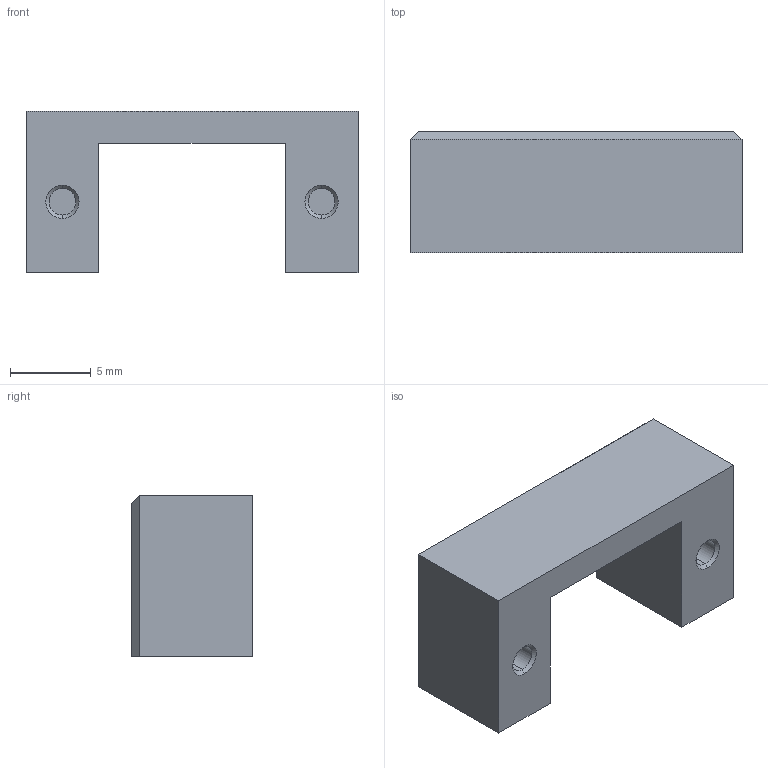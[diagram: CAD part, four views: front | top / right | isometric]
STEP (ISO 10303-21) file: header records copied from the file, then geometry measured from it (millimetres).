
FILE_DESCRIPTION (( 'STEP AP214' ), '1' );
FILE_NAME ('垫块2.STEP', '2026-09-29T01:01:07', ( '微软用户' ), ( '微软中国' ), 'SwSTEP 2.0', 'SolidWorks 2016', '' );
FILE_SCHEMA (( 'AUTOMOTIVE_DESIGN' ));
Length unit declared in the file: millimetre
Products named in the file (1): 菜輸2
Bounding box: 20.5 x 7.5 x 10 mm (x, y, z)
Volume: 796.7 mm3; surface area: 898.9 mm2
Topology: 1 solids, 1 shells, 33 faces, 71 edges, 44 vertices
Faces by surface type: plane 17, cone 8, cylinder 8
Entity records: 967 total; most frequent: DIRECTION 163, CARTESIAN_POINT 149, ORIENTED_EDGE 142, EDGE_CURVE 71, AXIS2_PLACEMENT_3D 58, VECTOR 47, LINE 47, VERTEX_POINT 44
